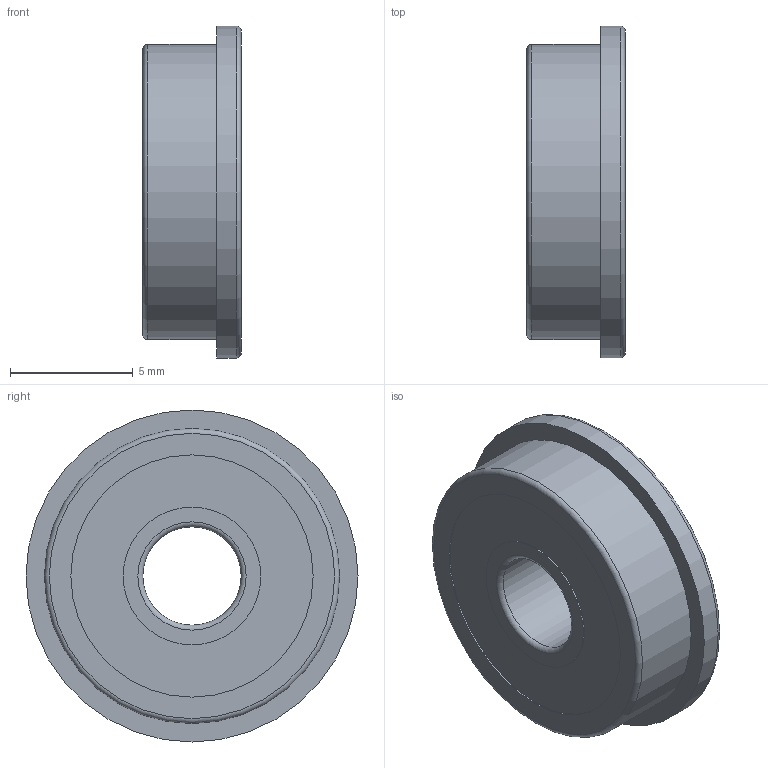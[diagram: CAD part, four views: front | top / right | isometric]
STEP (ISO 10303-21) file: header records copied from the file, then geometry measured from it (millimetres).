
FILE_DESCRIPTION(('FreeCAD Model'),'2;1');
FILE_NAME('Open CASCADE Shape Model','2021-04-30T11:15:49',(''),(''), 'Open CASCADE STEP processor 7.5','FreeCAD','Unknown');
FILE_SCHEMA(('AUTOMOTIVE_DESIGN { 1 0 10303 214 1 1 1 1 }'));
Length unit declared in the file: millimetre
Products named in the file (1): F604ZZ001
Bounding box: 4 x 13.5 x 13.5 mm (x, y, z)
Volume: 326.6 mm3; surface area: 976.5 mm2
Topology: 12 solids, 12 shells, 42 faces, 79 edges, 50 vertices
Faces by surface type: cylinder 15, plane 13, sphere 8, torus 6
Full cylindrical faces by diameter (mm): 4 x1, 5.6 x4, 6.15 x2, 8.95 x2, 9.85 x4, 12 x1, 13.5 x1
Entity records: 1778 total; most frequent: CARTESIAN_POINT 386, DIRECTION 250, ORIENTED_EDGE 110, PCURVE 110, DEFINITIONAL_REPRESENTATION 110, LINE 84, VECTOR 84, AXIS2_PLACEMENT_3D 77
